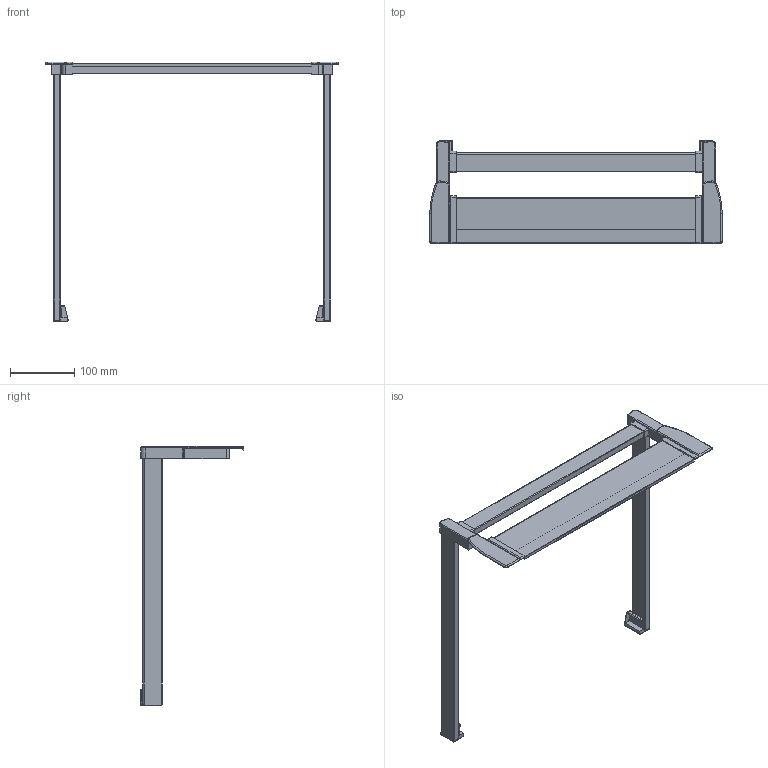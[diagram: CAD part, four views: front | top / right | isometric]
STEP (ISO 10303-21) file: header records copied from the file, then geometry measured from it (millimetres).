
FILE_DESCRIPTION (( 'STEP AP214' ), '1' );
FILE_NAME ('1_P620_NL 400_KAB 500_19er KS_.step', '2009-09-16T06:29:27', ( 'Waldinger Reinhard' ), ( 'Grass GmbH' ), 'SwSTEP 2.0', 'SolidWorks 2009', '' );
FILE_SCHEMA (( 'AUTOMOTIVE_DESIGN' ));
Length unit declared in the file: millimetre
Products named in the file (1): 1_P620_NL 400_KAB 500_19er KS_
Bounding box: 453.6 x 160.5 x 402.8 mm (x, y, z)
Volume: 799962.2 mm3; surface area: 191572.7 mm2
Topology: 1 solids, 1 shells, 220 faces, 578 edges, 364 vertices
Faces by surface type: plane 97, cylinder 91, torus 28, sphere 2, bspline 2
Entity records: 7004 total; most frequent: CARTESIAN_POINT 1345, DIRECTION 1198, ORIENTED_EDGE 1152, EDGE_CURVE 576, AXIS2_PLACEMENT_3D 433, VERTEX_POINT 364, VECTOR 332, LINE 332
